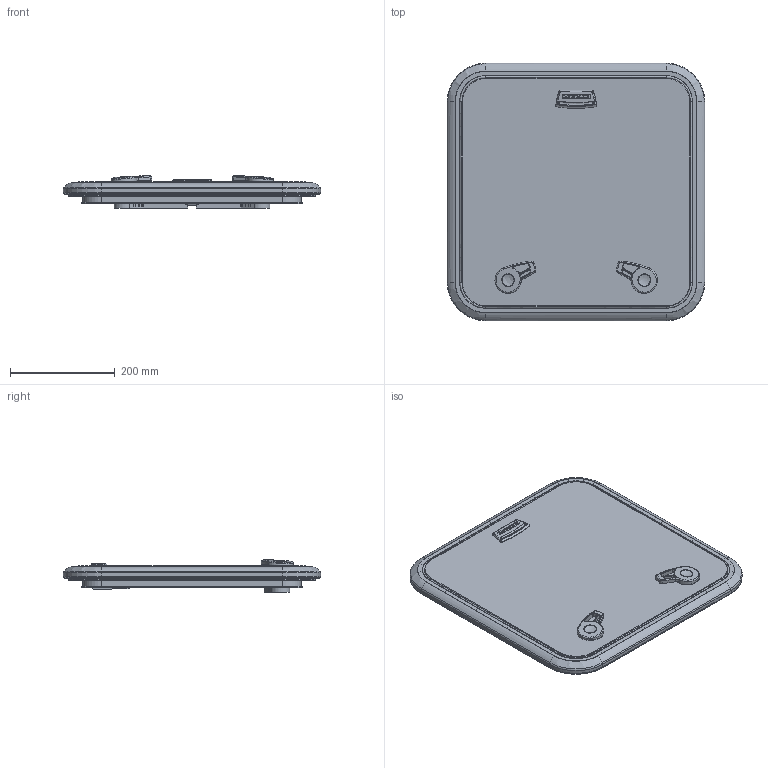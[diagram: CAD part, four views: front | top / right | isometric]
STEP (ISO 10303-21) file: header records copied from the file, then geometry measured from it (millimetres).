
FILE_DESCRIPTION((''),'2;1');
FILE_NAME('LEWMAR-HATCH-LOWPRO-40_ASM','2008-02-05T',('skennedy'),(''),'PRO/ENGINEER BY PARAMETRIC TECHNOLOGY CORPORATION, 2007030','PRO/ENGINEER BY PARAMETRIC TECHNOLOGY CORPORATION, 2007030','');
FILE_SCHEMA(('CONFIG_CONTROL_DESIGN'));
Length unit declared in the file: millimetre
Products named in the file (6): FRAME_40; 3594053X; HINGE_LEVER_LP; HANDLE_LP_LHS; HANDLE_LP_RHS; LEWMAR-HATCH-LOWPRO-40_ASM
Assembly tree (5 placements, depth 2):
  LEWMAR-HATCH-LOWPRO-40_ASM
    FRAME_40
    3594053X
    HINGE_LEVER_LP
    HANDLE_LP_LHS
    HANDLE_LP_RHS
Bounding box: 491 x 491 x 61.17 mm (x, y, z)
Volume: 1984548.5 mm3; surface area: 817571.2 mm2
Topology: 4 solids, 5 shells, 899 faces, 2244 edges, 1372 vertices
Faces by surface type: bspline 354, plane 297, cylinder 135, cone 41, torus 35, extrusion 23, sphere 14
Entity records: 38822 total; most frequent: CARTESIAN_POINT 19699, ORIENTED_EDGE 4464, DIRECTION 3023, EDGE_CURVE 2232, VERTEX_POINT 1372, AXIS2_PLACEMENT_3D 1057, EDGE_LOOP 958, VECTOR 909
